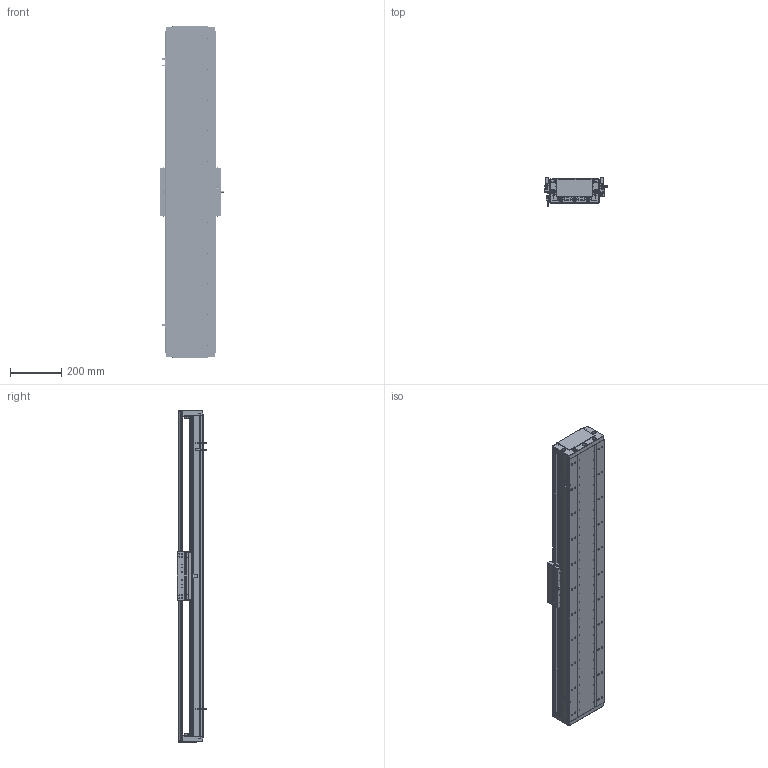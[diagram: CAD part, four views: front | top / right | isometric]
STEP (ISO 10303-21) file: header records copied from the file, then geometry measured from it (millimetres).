
FILE_DESCRIPTION (( 'STEP AP203' ), '1' );
FILE_NAME ('DA-C195-C2-T1020-C010-0.2 眻盄萇儂.STEP', '2025-08-15T01:04:01', ( '' ), ( '' ), 'SwSTEP 2.0', 'SolidWorks 2019', '' );
FILE_SCHEMA (( 'CONFIG_CONTROL_DESIGN' ));
Products named in the file (12): DA-C195-C2-T1020-C010-0.2 眻盄萇儂; DA95-HXJ-00 遣喳砎蝶; MS200 棠掑喜S315-T240; PM-T45ㄗ侂狟ㄘ; IU-CU195-L 菁釱絳寢; LMT黍杅芛; 66156-0001-003-00 裔啣; DA195-DG-H-00  端盖（压铸镂空版）; CU195-C2賑輸-俋楷; 66156-0001-005-00 光电感应片(默认); 葩璃 DA95-GT-T-00; IU-CU195-L-00 菁釱(L1260)
Assembly tree (20 placements, depth 3):
  DA-C195-C2-T1020-C010-0.2 眻盄萇儂
    IU-CU195-L 菁釱絳寢
      IU-CU195-L-00 菁釱(L1260)
      葩璃 DA95-GT-T-00  x4
    LMT黍杅芛
    MS200 棠掑喜S315-T240
    PM-T45ㄗ侂狟ㄘ  x3
    66156-0001-005-00 光电感应片(默认)
    DA195-DG-H-00  端盖（压铸镂空版）  x2
    DA95-HXJ-00 遣喳砎蝶  x4
    66156-0001-003-00 裔啣
    CU195-C2賑輸-俋楷
Bounding box: 248 x 115.6 x 1300 mm (x, y, z)
Volume: 8992429.2 mm3; surface area: 2575947.4 mm2
Topology: 58 solids, 130 shells, 5305 faces, 13628 edges, 8297 vertices
Faces by surface type: cylinder 2317, plane 1638, bspline 710, cone 560, torus 44, sphere 36
Entity records: 148051 total; most frequent: CARTESIAN_POINT 46379, ORIENTED_EDGE 21310, DIRECTION 20368, EDGE_CURVE 10655, AXIS2_PLACEMENT_3D 7583, VERTEX_POINT 6727, VECTOR 5202, LINE 5202
